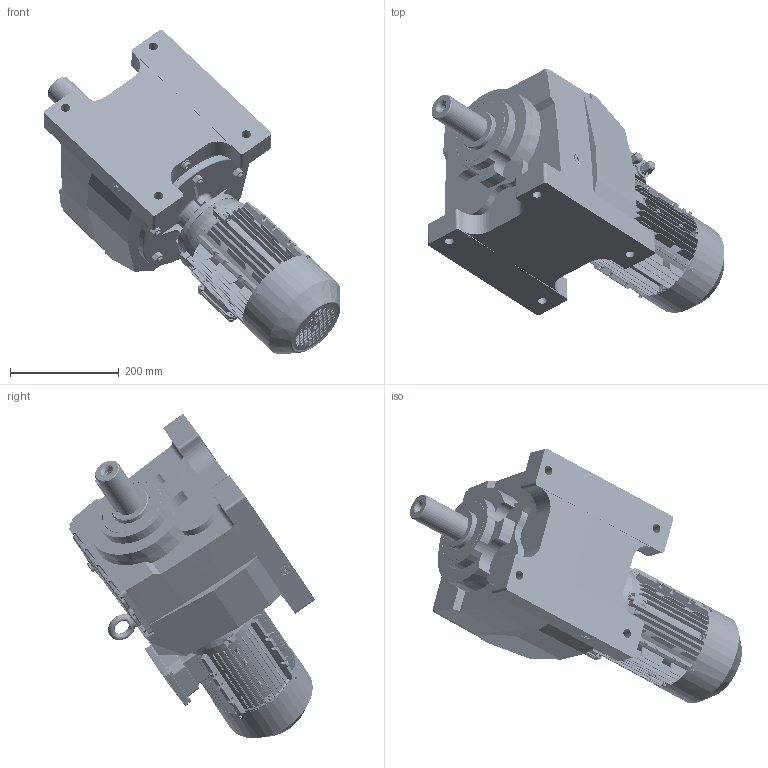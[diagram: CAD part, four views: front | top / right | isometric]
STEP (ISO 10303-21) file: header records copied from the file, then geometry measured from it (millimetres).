
FILE_DESCRIPTION (( 'STEP AP203' ), '1' );
FILE_NAME ('MV_473_0_MX-90L.STEP', '2018-11-27T12:03:32', ( '' ), ( '' ), 'SwSTEP 2.0', 'SolidWorks 2012', '' );
FILE_SCHEMA (( 'CONFIG_CONTROL_DESIGN' ));
Products named in the file (26): MV_473_0_MX-90L; IE3-90L flange B14; MX3-90L_B14; IE3 90L  oil seal_1; hexagon nuts grade c gb_GB_FASTENER_NUT_SNC1 M6-N_1; cross recessed pan head screws gb_GB_CROSS_SCREWS_TYPE1 M4X5-5  H type-N_1; cross recessed pan head screws gb_GB_CROSS_SCREWS_TYPE1 M5X10-10  H type-N_1; IE3 90L cable glandsM16_1; IE3 90L grouding mark_1; circlips for shaft--type a large gb_GB_CONNECTING_PIECE_RING_RRA 19_1; plain washers-n series-grade a gb_GB_FASTENER_WASHER_PWNA 4_1; IE3 90L flange_1; hexagon flange head tapping screws gb_GB_SQUARE_AND_HEXAGON_TYPE137 ST4.2X9.5 F-N_1; spring lock washers--normal type gb_GB_FASTENER_WASHER_SW 6_1; hexagon socket head cap screws gb_GB_FASTENER_SCREWS_HSHCS M6X30-N_1; cross recessed pan head tapping screws gb_GB_CROSS_SCREWS_TYPE128 ST4.2X9.5 H C-N_1; IE3 90L terminal box cover_1; IE3 90L terminal box_1; IE3 90L fan cover_1; plain parallel keys_GB_CONNECTING_PIECE_KEYS_CSK 8X40_1; IE3 90L casing_1; IE3 90L rotor_1; IE3 90L fan_1; 4390B14_Varsayìlan; M473_Varsayìlan; ML4A_Varsayìlan
Assembly tree (55 placements, depth 3):
  MV_473_0_MX-90L
    M473_Varsayìlan
    4390B14_Varsayìlan
    ML4A_Varsayìlan
    MX3-90L_B14
      IE3 90L casing_1
      IE3 90L rotor_1
      IE3 90L fan_1
      IE3 90L fan cover_1
      plain parallel keys_GB_CONNECTING_PIECE_KEYS_CSK 8X40_1
      IE3 90L terminal box_1
      IE3 90L terminal box cover_1
      spring lock washers--normal type gb_GB_FASTENER_WASHER_SW 6_1  x8
      cross recessed pan head tapping screws gb_GB_CROSS_SCREWS_TYPE128 ST4.2X9.5 H C-N_1  x4
      hexagon flange head tapping screws gb_GB_SQUARE_AND_HEXAGON_TYPE137 ST4.2X9.5 F-N_1  x4
      hexagon socket head cap screws gb_GB_FASTENER_SCREWS_HSHCS M6X30-N_1  x8
      IE3 90L flange_1
      circlips for shaft--type a large gb_GB_CONNECTING_PIECE_RING_RRA 19_1
      IE3 90L grouding mark_1
      plain washers-n series-grade a gb_GB_FASTENER_WASHER_PWNA 4_1
      cross recessed pan head screws gb_GB_CROSS_SCREWS_TYPE1 M4X5-5  H type-N_1
      cross recessed pan head screws gb_GB_CROSS_SCREWS_TYPE1 M5X10-10  H type-N_1  x4
      IE3 90L cable glandsM16_1  x2
      IE3 90L  oil seal_1
      hexagon nuts grade c gb_GB_FASTENER_NUT_SNC1 M6-N_1  x7
      IE3-90L flange B14
Bounding box: 546.89 x 453.99 x 597.73 mm (x, y, z)
Volume: 21193393.2 mm3; surface area: 1528108.2 mm2
Topology: 54 solids, 54 shells, 5505 faces, 13871 edges, 8507 vertices
Faces by surface type: plane 1994, cylinder 1686, bspline 1120, cone 551, sphere 100, torus 54
Entity records: 191517 total; most frequent: CARTESIAN_POINT 79873, ORIENTED_EDGE 24432, DIRECTION 19977, EDGE_CURVE 12216, VERTEX_POINT 7550, AXIS2_PLACEMENT_3D 7335, LINE 5307, VECTOR 5307
